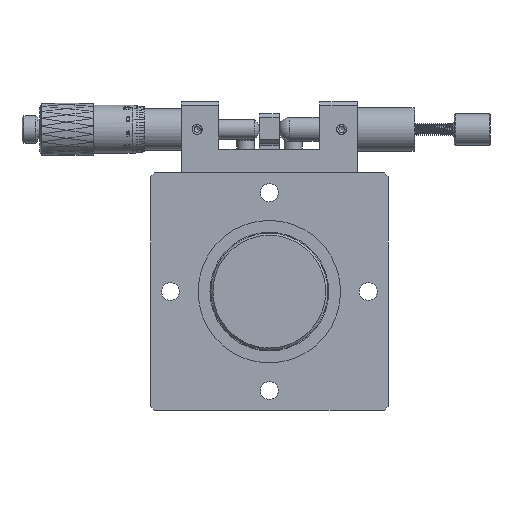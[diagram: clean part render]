
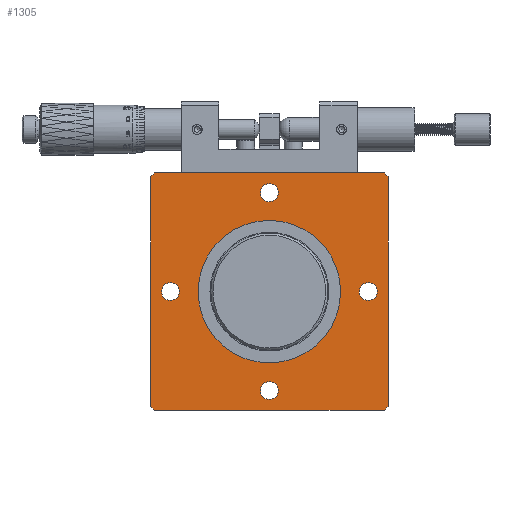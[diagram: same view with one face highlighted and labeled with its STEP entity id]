
A CAD part, front view. The second image highlights one B-rep face of the part: STEP entity #1305.
In plain terms, the highlighted planar face has unit normal (0, -1, 0).
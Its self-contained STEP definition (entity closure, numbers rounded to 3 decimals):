
#77 = LINE ( 'NONE', #62818, #21068 ) ;
#610 = CARTESIAN_POINT ( 'NONE',  ( 25., 0., 0. ) ) ;
#718 = EDGE_LOOP ( 'NONE', ( #64244 ) ) ;
#1305 = ADVANCED_FACE ( 'NONE', ( #8498, #34354, #24952, #17648, #49472, #14202 ), #54819, .F. ) ;
#1320 = CARTESIAN_POINT ( 'NONE',  ( 0., 0., -25. ) ) ;
#1326 = LINE ( 'NONE', #5705, #16514 ) ;
#1827 = CARTESIAN_POINT ( 'NONE',  ( 29., 0., -30. ) ) ;
#2642 = LINE ( 'NONE', #32196, #16215 ) ;
#3461 = CARTESIAN_POINT ( 'NONE',  ( 0., 0., 0. ) ) ;
#3513 = DIRECTION ( 'NONE',  ( -1., 0., 0. ) ) ;
#4578 = CARTESIAN_POINT ( 'NONE',  ( -30., 0., -29. ) ) ;
#4882 = ORIENTED_EDGE ( 'NONE', *, *, #42232, .T. ) ;
#5418 = CIRCLE ( 'NONE', #23644, 2.25 ) ;
#5705 = CARTESIAN_POINT ( 'NONE',  ( -29., 0., 30. ) ) ;
#5811 = EDGE_CURVE ( 'NONE', #52412, #34012, #47930, .T. ) ;
#5946 = EDGE_LOOP ( 'NONE', ( #27127 ) ) ;
#6083 = DIRECTION ( 'NONE',  ( 0., 0., 1. ) ) ;
#7956 = DIRECTION ( 'NONE',  ( 0., 0., -1. ) ) ;
#8131 = VERTEX_POINT ( 'NONE', #23912 ) ;
#8404 = ORIENTED_EDGE ( 'NONE', *, *, #5811, .T. ) ;
#8448 = EDGE_CURVE ( 'NONE', #21558, #57708, #1326, .T. ) ;
#8498 = FACE_BOUND ( 'NONE', #5946, .T. ) ;
#8554 = CARTESIAN_POINT ( 'NONE',  ( -30., 0., -30. ) ) ;
#8559 = CARTESIAN_POINT ( 'NONE',  ( 30., 0., -29. ) ) ;
#8576 = EDGE_LOOP ( 'NONE', ( #47702, #46505, #28673, #56790, #58750, #8404, #22704, #45517 ) ) ;
#9385 = CIRCLE ( 'NONE', #37208, 2.25 ) ;
#10189 = CARTESIAN_POINT ( 'NONE',  ( 0., 0., -18. ) ) ;
#12733 = DIRECTION ( 'NONE',  ( 0., 0., 1. ) ) ;
#13145 = EDGE_CURVE ( 'NONE', #25214, #25214, #34739, .T. ) ;
#13176 = EDGE_LOOP ( 'NONE', ( #57346 ) ) ;
#14202 = FACE_OUTER_BOUND ( 'NONE', #8576, .T. ) ;
#14736 = CARTESIAN_POINT ( 'NONE',  ( -29., 0., -30. ) ) ;
#15679 = CARTESIAN_POINT ( 'NONE',  ( -25., 0., 0. ) ) ;
#15842 = AXIS2_PLACEMENT_3D ( 'NONE', #38515, #33141, #7956 ) ;
#16215 = VECTOR ( 'NONE', #17767, 1000. ) ;
#16514 = VECTOR ( 'NONE', #25868, 1000. ) ;
#17385 = CARTESIAN_POINT ( 'NONE',  ( 30., 0., 29. ) ) ;
#17445 = DIRECTION ( 'NONE',  ( 0., 1., 0. ) ) ;
#17648 = FACE_BOUND ( 'NONE', #718, .T. ) ;
#17767 = DIRECTION ( 'NONE',  ( 0.707, 0., 0.707 ) ) ;
#18806 = ORIENTED_EDGE ( 'NONE', *, *, #49726, .T. ) ;
#19325 = EDGE_LOOP ( 'NONE', ( #4882 ) ) ;
#19442 = EDGE_CURVE ( 'NONE', #33423, #58837, #40114, .T. ) ;
#19785 = DIRECTION ( 'NONE',  ( 0., 0., 1. ) ) ;
#21068 = VECTOR ( 'NONE', #6083, 1000. ) ;
#21558 = VERTEX_POINT ( 'NONE', #60760 ) ;
#22204 = EDGE_CURVE ( 'NONE', #46000, #57708, #77, .T. ) ;
#22704 = ORIENTED_EDGE ( 'NONE', *, *, #32296, .F. ) ;
#22747 = DIRECTION ( 'NONE',  ( -0.707, 0., 0.707 ) ) ;
#22801 = DIRECTION ( 'NONE',  ( 0., 0., 1. ) ) ;
#23644 = AXIS2_PLACEMENT_3D ( 'NONE', #610, #66427, #19785 ) ;
#23912 = CARTESIAN_POINT ( 'NONE',  ( 0., 0., -22.75 ) ) ;
#24952 = FACE_BOUND ( 'NONE', #19325, .T. ) ;
#25214 = VERTEX_POINT ( 'NONE', #40978 ) ;
#25523 = LINE ( 'NONE', #46974, #64927 ) ;
#25868 = DIRECTION ( 'NONE',  ( -0.707, 0., -0.707 ) ) ;
#26202 = EDGE_CURVE ( 'NONE', #56188, #56188, #32987, .T. ) ;
#27127 = ORIENTED_EDGE ( 'NONE', *, *, #26202, .F. ) ;
#27769 = VERTEX_POINT ( 'NONE', #8559 ) ;
#28673 = ORIENTED_EDGE ( 'NONE', *, *, #19442, .F. ) ;
#28682 = CARTESIAN_POINT ( 'NONE',  ( -30., 0., -29. ) ) ;
#28998 = AXIS2_PLACEMENT_3D ( 'NONE', #3461, #44430, #34682 ) ;
#31980 = CARTESIAN_POINT ( 'NONE',  ( 25., 0., 2.25 ) ) ;
#32196 = CARTESIAN_POINT ( 'NONE',  ( 29., 0., -30. ) ) ;
#32296 = EDGE_CURVE ( 'NONE', #21558, #34012, #39828, .T. ) ;
#32551 = AXIS2_PLACEMENT_3D ( 'NONE', #15679, #36807, #40878 ) ;
#32556 = VECTOR ( 'NONE', #22747, 1000. ) ;
#32987 = CIRCLE ( 'NONE', #15842, 18. ) ;
#33036 = DIRECTION ( 'NONE',  ( 0.707, 0., -0.707 ) ) ;
#33141 = DIRECTION ( 'NONE',  ( 0., -1., 0. ) ) ;
#33423 = VERTEX_POINT ( 'NONE', #1827 ) ;
#33892 = CARTESIAN_POINT ( 'NONE',  ( 0., 0., 25. ) ) ;
#34012 = VERTEX_POINT ( 'NONE', #59315 ) ;
#34354 = FACE_BOUND ( 'NONE', #13176, .T. ) ;
#34682 = DIRECTION ( 'NONE',  ( 0., 0., 1. ) ) ;
#34739 = CIRCLE ( 'NONE', #32551, 2.25 ) ;
#35963 = CARTESIAN_POINT ( 'NONE',  ( 0., 0., 27.25 ) ) ;
#36194 = EDGE_CURVE ( 'NONE', #57500, #57500, #5418, .T. ) ;
#36807 = DIRECTION ( 'NONE',  ( 0., 1., 0. ) ) ;
#37208 = AXIS2_PLACEMENT_3D ( 'NONE', #1320, #52669, #22801 ) ;
#37469 = CARTESIAN_POINT ( 'NONE',  ( 30., 0., 29. ) ) ;
#38515 = CARTESIAN_POINT ( 'NONE',  ( 0., 0., 0. ) ) ;
#39828 = LINE ( 'NONE', #54924, #66435 ) ;
#40114 = LINE ( 'NONE', #8554, #55284 ) ;
#40462 = VECTOR ( 'NONE', #33036, 1000. ) ;
#40878 = DIRECTION ( 'NONE',  ( 0., 0., 1. ) ) ;
#40978 = CARTESIAN_POINT ( 'NONE',  ( -25., 0., 2.25 ) ) ;
#41009 = EDGE_LOOP ( 'NONE', ( #18806 ) ) ;
#41726 = EDGE_CURVE ( 'NONE', #46000, #58837, #54183, .T. ) ;
#42009 = AXIS2_PLACEMENT_3D ( 'NONE', #33892, #17445, #12733 ) ;
#42232 = EDGE_CURVE ( 'NONE', #8131, #8131, #9385, .T. ) ;
#42789 = CARTESIAN_POINT ( 'NONE',  ( -30., 0., 29. ) ) ;
#44430 = DIRECTION ( 'NONE',  ( 0., 1., 0. ) ) ;
#45517 = ORIENTED_EDGE ( 'NONE', *, *, #8448, .T. ) ;
#46000 = VERTEX_POINT ( 'NONE', #4578 ) ;
#46505 = ORIENTED_EDGE ( 'NONE', *, *, #41726, .T. ) ;
#46974 = CARTESIAN_POINT ( 'NONE',  ( 30., 0., -30. ) ) ;
#47702 = ORIENTED_EDGE ( 'NONE', *, *, #22204, .F. ) ;
#47930 = LINE ( 'NONE', #17385, #32556 ) ;
#48452 = EDGE_CURVE ( 'NONE', #33423, #27769, #2642, .T. ) ;
#49472 = FACE_BOUND ( 'NONE', #41009, .T. ) ;
#49726 = EDGE_CURVE ( 'NONE', #50756, #50756, #63428, .T. ) ;
#50756 = VERTEX_POINT ( 'NONE', #35963 ) ;
#51360 = DIRECTION ( 'NONE',  ( 0., 0., -1. ) ) ;
#52412 = VERTEX_POINT ( 'NONE', #37469 ) ;
#52669 = DIRECTION ( 'NONE',  ( 0., 1., 0. ) ) ;
#54183 = LINE ( 'NONE', #28682, #40462 ) ;
#54819 = PLANE ( 'NONE',  #28998 ) ;
#54924 = CARTESIAN_POINT ( 'NONE',  ( -30., 0., 30. ) ) ;
#55284 = VECTOR ( 'NONE', #3513, 1000. ) ;
#56188 = VERTEX_POINT ( 'NONE', #10189 ) ;
#56790 = ORIENTED_EDGE ( 'NONE', *, *, #48452, .T. ) ;
#57346 = ORIENTED_EDGE ( 'NONE', *, *, #13145, .T. ) ;
#57500 = VERTEX_POINT ( 'NONE', #31980 ) ;
#57708 = VERTEX_POINT ( 'NONE', #42789 ) ;
#58750 = ORIENTED_EDGE ( 'NONE', *, *, #65334, .F. ) ;
#58837 = VERTEX_POINT ( 'NONE', #14736 ) ;
#59315 = CARTESIAN_POINT ( 'NONE',  ( 29., 0., 30. ) ) ;
#60298 = DIRECTION ( 'NONE',  ( 1., 0., 0. ) ) ;
#60760 = CARTESIAN_POINT ( 'NONE',  ( -29., 0., 30. ) ) ;
#62818 = CARTESIAN_POINT ( 'NONE',  ( -30., 0., -30. ) ) ;
#63428 = CIRCLE ( 'NONE', #42009, 2.25 ) ;
#64244 = ORIENTED_EDGE ( 'NONE', *, *, #36194, .T. ) ;
#64927 = VECTOR ( 'NONE', #51360, 1000. ) ;
#65334 = EDGE_CURVE ( 'NONE', #52412, #27769, #25523, .T. ) ;
#66427 = DIRECTION ( 'NONE',  ( 0., 1., 0. ) ) ;
#66435 = VECTOR ( 'NONE', #60298, 1000. ) ;
